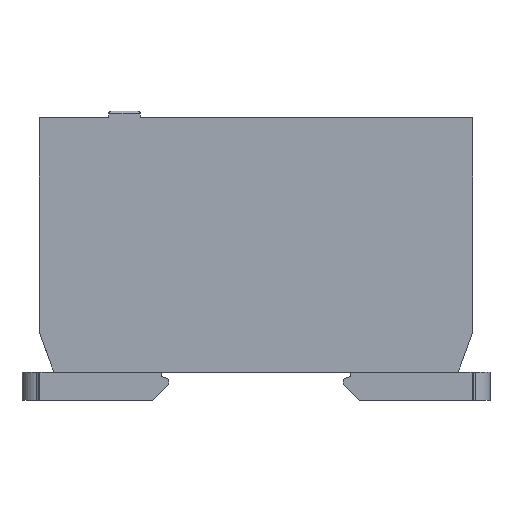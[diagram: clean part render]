
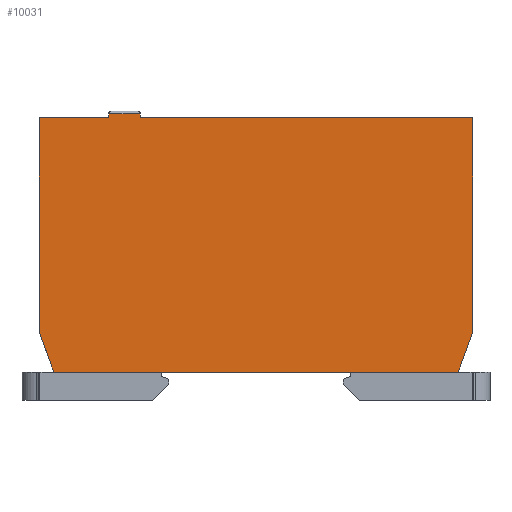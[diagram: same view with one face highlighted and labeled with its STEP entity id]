
A CAD part, left-side view. The second image highlights one B-rep face of the part: STEP entity #10031.
In plain terms, the highlighted planar face has unit normal (-1, 0, 0).
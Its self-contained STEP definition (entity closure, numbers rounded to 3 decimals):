
#30 = CARTESIAN_POINT ( 'NONE',  ( 0., -2.871, 28. ) ) ;
#35 = VECTOR ( 'NONE', #5555, 1000. ) ;
#99 = CARTESIAN_POINT ( 'NONE',  ( 0., 5.5, 5. ) ) ;
#372 = VERTEX_POINT ( 'NONE', #9907 ) ;
#441 = ORIENTED_EDGE ( 'NONE', *, *, #1334, .T. ) ;
#703 = LINE ( 'NONE', #10728, #8060 ) ;
#985 = CARTESIAN_POINT ( 'NONE',  ( 0., 60.5, 49. ) ) ;
#1024 = EDGE_CURVE ( 'NONE', #11130, #12060, #5172, .T. ) ;
#1216 = LINE ( 'NONE', #10256, #11112 ) ;
#1334 = EDGE_CURVE ( 'NONE', #12060, #10558, #2502, .T. ) ;
#1434 = VECTOR ( 'NONE', #3594, 1000. ) ;
#1464 = CARTESIAN_POINT ( 'NONE',  ( 0., 78., 49. ) ) ;
#1483 = VERTEX_POINT ( 'NONE', #7982 ) ;
#1794 = CARTESIAN_POINT ( 'NONE',  ( 0., 66., 28. ) ) ;
#2130 = VERTEX_POINT ( 'NONE', #7560 ) ;
#2502 = LINE ( 'NONE', #8429, #8126 ) ;
#2770 = VECTOR ( 'NONE', #8713, 1000. ) ;
#2780 = CARTESIAN_POINT ( 'NONE',  ( 0., 5.5, 5. ) ) ;
#2868 = EDGE_LOOP ( 'NONE', ( #441, #10598, #12561, #4451, #8036, #11161, #12455, #8316, #8326, #12198 ) ) ;
#2979 = DIRECTION ( 'NONE',  ( -1., 0., 0. ) ) ;
#3097 = LINE ( 'NONE', #6143, #6469 ) ;
#3331 = CARTESIAN_POINT ( 'NONE',  ( 0., 66., 49.68 ) ) ;
#3377 = AXIS2_PLACEMENT_3D ( 'NONE', #30, #2979, #7093 ) ;
#3499 = LINE ( 'NONE', #1794, #2770 ) ;
#3565 = LINE ( 'NONE', #6675, #35 ) ;
#3594 = DIRECTION ( 'NONE',  ( 0., 1., 0. ) ) ;
#3691 = VERTEX_POINT ( 'NONE', #3331 ) ;
#3990 = CARTESIAN_POINT ( 'NONE',  ( 0., 3., 49. ) ) ;
#4025 = CARTESIAN_POINT ( 'NONE',  ( 0., 75.5, 5. ) ) ;
#4451 = ORIENTED_EDGE ( 'NONE', *, *, #8859, .T. ) ;
#4552 = EDGE_CURVE ( 'NONE', #12043, #11130, #1216, .T. ) ;
#4792 = EDGE_CURVE ( 'NONE', #13023, #1483, #3097, .T. ) ;
#4888 = EDGE_CURVE ( 'NONE', #3691, #372, #3499, .T. ) ;
#4932 = EDGE_CURVE ( 'NONE', #1483, #12043, #3565, .T. ) ;
#5011 = CARTESIAN_POINT ( 'NONE',  ( 0., 3., 11.869 ) ) ;
#5172 = LINE ( 'NONE', #99, #7202 ) ;
#5227 = DIRECTION ( 'NONE',  ( 0., -1., 0. ) ) ;
#5279 = LINE ( 'NONE', #9243, #8047 ) ;
#5467 = CARTESIAN_POINT ( 'NONE',  ( 0., 78., 49. ) ) ;
#5552 = EDGE_CURVE ( 'NONE', #10558, #12411, #5707, .T. ) ;
#5555 = DIRECTION ( 'NONE',  ( 0., -0.342, -0.94 ) ) ;
#5707 = LINE ( 'NONE', #6712, #1434 ) ;
#6143 = CARTESIAN_POINT ( 'NONE',  ( 0., 78., 11.869 ) ) ;
#6469 = VECTOR ( 'NONE', #12046, 1000. ) ;
#6675 = CARTESIAN_POINT ( 'NONE',  ( 0., 75.5, 5. ) ) ;
#6712 = CARTESIAN_POINT ( 'NONE',  ( 0., 60.5, 49. ) ) ;
#6745 = LINE ( 'NONE', #1464, #11611 ) ;
#7093 = DIRECTION ( 'NONE',  ( 0., 0., -1. ) ) ;
#7202 = VECTOR ( 'NONE', #8075, 1000. ) ;
#7560 = CARTESIAN_POINT ( 'NONE',  ( 0., 60.5, 49.68 ) ) ;
#7982 = CARTESIAN_POINT ( 'NONE',  ( 0., 78., 11.869 ) ) ;
#8036 = ORIENTED_EDGE ( 'NONE', *, *, #4888, .T. ) ;
#8047 = VECTOR ( 'NONE', #12184, 1000. ) ;
#8060 = VECTOR ( 'NONE', #10803, 1000. ) ;
#8075 = DIRECTION ( 'NONE',  ( 0., -0.342, 0.94 ) ) ;
#8126 = VECTOR ( 'NONE', #9559, 1000. ) ;
#8316 = ORIENTED_EDGE ( 'NONE', *, *, #4932, .T. ) ;
#8326 = ORIENTED_EDGE ( 'NONE', *, *, #4552, .T. ) ;
#8429 = CARTESIAN_POINT ( 'NONE',  ( 0., 3., 11.869 ) ) ;
#8442 = EDGE_CURVE ( 'NONE', #12411, #2130, #5279, .T. ) ;
#8713 = DIRECTION ( 'NONE',  ( 0., 0., -1. ) ) ;
#8859 = EDGE_CURVE ( 'NONE', #2130, #3691, #703, .T. ) ;
#9243 = CARTESIAN_POINT ( 'NONE',  ( 0., 60.5, 49.68 ) ) ;
#9559 = DIRECTION ( 'NONE',  ( 0., 0., 1. ) ) ;
#9907 = CARTESIAN_POINT ( 'NONE',  ( 0., 66., 49. ) ) ;
#10031 = ADVANCED_FACE ( 'NONE', ( #12940 ), #12874, .T. ) ;
#10256 = CARTESIAN_POINT ( 'NONE',  ( 0., 75.5, 5. ) ) ;
#10558 = VERTEX_POINT ( 'NONE', #3990 ) ;
#10598 = ORIENTED_EDGE ( 'NONE', *, *, #5552, .T. ) ;
#10728 = CARTESIAN_POINT ( 'NONE',  ( 0., 66., 49.68 ) ) ;
#10803 = DIRECTION ( 'NONE',  ( 0., 1., 0. ) ) ;
#11112 = VECTOR ( 'NONE', #5227, 1000. ) ;
#11130 = VERTEX_POINT ( 'NONE', #2780 ) ;
#11161 = ORIENTED_EDGE ( 'NONE', *, *, #12210, .F. ) ;
#11611 = VECTOR ( 'NONE', #11787, 1000. ) ;
#11787 = DIRECTION ( 'NONE',  ( 0., -1., 0. ) ) ;
#12043 = VERTEX_POINT ( 'NONE', #4025 ) ;
#12046 = DIRECTION ( 'NONE',  ( 0., 0., -1. ) ) ;
#12060 = VERTEX_POINT ( 'NONE', #5011 ) ;
#12184 = DIRECTION ( 'NONE',  ( 0., 0., 1. ) ) ;
#12198 = ORIENTED_EDGE ( 'NONE', *, *, #1024, .T. ) ;
#12210 = EDGE_CURVE ( 'NONE', #13023, #372, #6745, .T. ) ;
#12411 = VERTEX_POINT ( 'NONE', #985 ) ;
#12455 = ORIENTED_EDGE ( 'NONE', *, *, #4792, .T. ) ;
#12561 = ORIENTED_EDGE ( 'NONE', *, *, #8442, .T. ) ;
#12874 = PLANE ( 'NONE',  #3377 ) ;
#12940 = FACE_OUTER_BOUND ( 'NONE', #2868, .T. ) ;
#13023 = VERTEX_POINT ( 'NONE', #5467 ) ;
